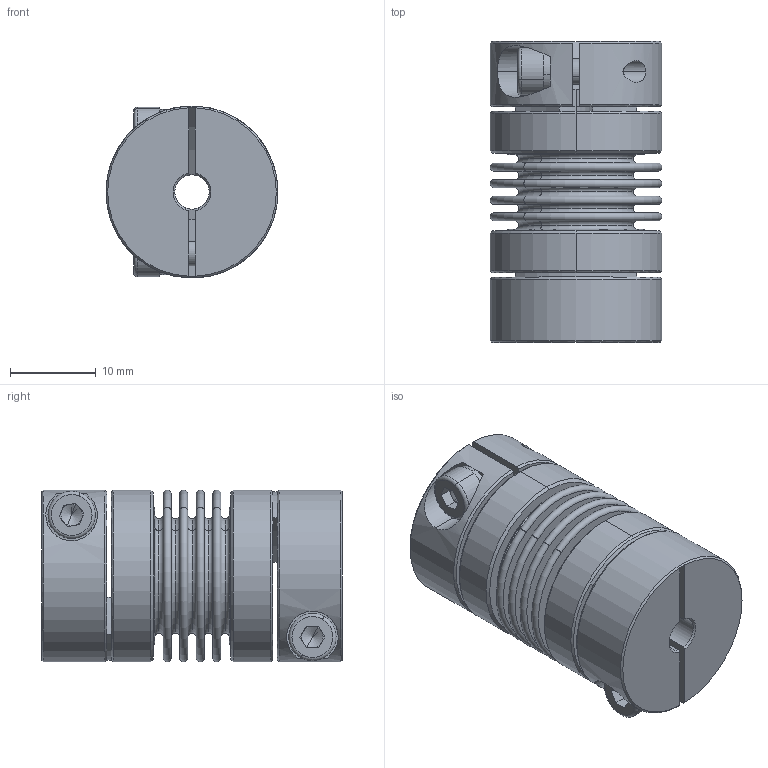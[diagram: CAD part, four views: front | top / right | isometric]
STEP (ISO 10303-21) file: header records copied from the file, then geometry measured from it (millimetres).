
FILE_DESCRIPTION (( 'STEP AP203' ), '1' );
FILE_NAME ('LB-B-D20L34-4-6.35.STEP', '2021-11-04T01:37:49', ( '' ), ( '' ), 'SwSTEP 2.0', 'SolidWorks 2018', '' );
FILE_SCHEMA (( 'CONFIG_CONTROL_DESIGN' ));
Length unit declared in the file: millimetre
Products named in the file (2): LB-B-D20L34-4-6.35; 零件4^LB-B-D20L34 波纹管联轴器-组装体
Assembly tree (1 placements, depth 2):
  LB-B-D20L34-4-6.35
    零件4^LB-B-D20L34 波纹管联轴器-组装体
Bounding box: 20 x 35 x 20 mm (x, y, z)
Volume: 6243.9 mm3; surface area: 9578.1 mm2
Topology: 1 solids, 1 shells, 246 faces, 578 edges, 358 vertices
Faces by surface type: plane 82, torus 68, cylinder 62, cone 34
Entity records: 7554 total; most frequent: CARTESIAN_POINT 1494, DIRECTION 1382, ORIENTED_EDGE 1148, AXIS2_PLACEMENT_3D 606, EDGE_CURVE 574, VERTEX_POINT 358, CIRCLE 356, EDGE_LOOP 288
